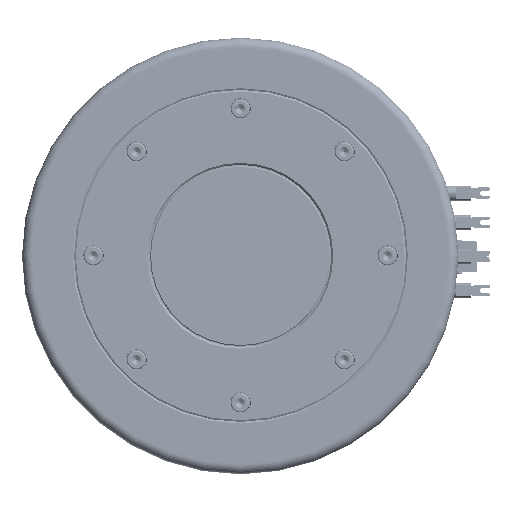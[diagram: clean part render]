
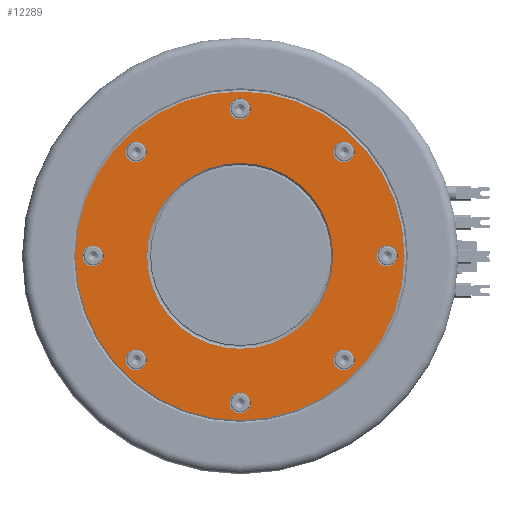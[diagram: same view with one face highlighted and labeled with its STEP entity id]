
A CAD part, top view. The second image highlights one B-rep face of the part: STEP entity #12289.
In plain terms, the highlighted planar face has unit normal (0, 0, 1) as drawn and (-1, 0, 0) by its records, which use the part's own axes.
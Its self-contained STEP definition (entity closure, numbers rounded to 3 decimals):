
#10424=CARTESIAN_POINT('',(0.,0.,0.));
#10425=DIRECTION('',(1.,0.,0.));
#10426=DIRECTION('',(0.,0.,1.));
#10427=AXIS2_PLACEMENT_3D('',#10424,#10425,#10426);
#10429=CARTESIAN_POINT('',(0.,0.,0.));
#10430=DIRECTION('',(1.,0.,0.));
#10431=DIRECTION('',(0.,0.,-1.));
#10432=AXIS2_PLACEMENT_3D('',#10429,#10430,#10431);
#10434=CARTESIAN_POINT('',(0.,54.801,54.801));
#10435=DIRECTION('',(-1.,0.,0.));
#10436=DIRECTION('',(0.,0.,1.));
#10437=AXIS2_PLACEMENT_3D('',#10434,#10435,#10436);
#10439=CARTESIAN_POINT('',(0.,54.801,54.801));
#10440=DIRECTION('',(-1.,0.,0.));
#10441=DIRECTION('',(0.,0.,-1.));
#10442=AXIS2_PLACEMENT_3D('',#10439,#10440,#10441);
#10444=CARTESIAN_POINT('',(0.,0.,77.5));
#10445=DIRECTION('',(-1.,0.,0.));
#10446=DIRECTION('',(0.,0.,1.));
#10447=AXIS2_PLACEMENT_3D('',#10444,#10445,#10446);
#10449=CARTESIAN_POINT('',(0.,0.,77.5));
#10450=DIRECTION('',(-1.,0.,0.));
#10451=DIRECTION('',(0.,0.,-1.));
#10452=AXIS2_PLACEMENT_3D('',#10449,#10450,#10451);
#10454=CARTESIAN_POINT('',(0.,-54.801,54.801));
#10455=DIRECTION('',(-1.,0.,0.));
#10456=DIRECTION('',(0.,0.,1.));
#10457=AXIS2_PLACEMENT_3D('',#10454,#10455,#10456);
#10459=CARTESIAN_POINT('',(0.,-54.801,54.801));
#10460=DIRECTION('',(-1.,0.,0.));
#10461=DIRECTION('',(0.,0.,-1.));
#10462=AXIS2_PLACEMENT_3D('',#10459,#10460,#10461);
#10464=CARTESIAN_POINT('',(0.,-77.5,0.));
#10465=DIRECTION('',(-1.,0.,0.));
#10466=DIRECTION('',(0.,0.,1.));
#10467=AXIS2_PLACEMENT_3D('',#10464,#10465,#10466);
#10469=CARTESIAN_POINT('',(0.,-77.5,0.));
#10470=DIRECTION('',(-1.,0.,0.));
#10471=DIRECTION('',(0.,0.,-1.));
#10472=AXIS2_PLACEMENT_3D('',#10469,#10470,#10471);
#10474=CARTESIAN_POINT('',(0.,-54.801,-54.801));
#10475=DIRECTION('',(-1.,0.,0.));
#10476=DIRECTION('',(0.,0.,1.));
#10477=AXIS2_PLACEMENT_3D('',#10474,#10475,#10476);
#10479=CARTESIAN_POINT('',(0.,-54.801,-54.801));
#10480=DIRECTION('',(-1.,0.,0.));
#10481=DIRECTION('',(0.,0.,-1.));
#10482=AXIS2_PLACEMENT_3D('',#10479,#10480,#10481);
#10484=CARTESIAN_POINT('',(0.,0.,-77.5));
#10485=DIRECTION('',(-1.,0.,0.));
#10486=DIRECTION('',(0.,0.,1.));
#10487=AXIS2_PLACEMENT_3D('',#10484,#10485,#10486);
#10489=CARTESIAN_POINT('',(0.,0.,-77.5));
#10490=DIRECTION('',(-1.,0.,0.));
#10491=DIRECTION('',(0.,0.,-1.));
#10492=AXIS2_PLACEMENT_3D('',#10489,#10490,#10491);
#10494=CARTESIAN_POINT('',(0.,54.801,-54.801));
#10495=DIRECTION('',(-1.,0.,0.));
#10496=DIRECTION('',(0.,0.,1.));
#10497=AXIS2_PLACEMENT_3D('',#10494,#10495,#10496);
#10499=CARTESIAN_POINT('',(0.,54.801,-54.801));
#10500=DIRECTION('',(-1.,0.,0.));
#10501=DIRECTION('',(0.,0.,-1.));
#10502=AXIS2_PLACEMENT_3D('',#10499,#10500,#10501);
#10504=CARTESIAN_POINT('',(0.,77.5,0.));
#10505=DIRECTION('',(-1.,0.,0.));
#10506=DIRECTION('',(0.,0.,1.));
#10507=AXIS2_PLACEMENT_3D('',#10504,#10505,#10506);
#10509=CARTESIAN_POINT('',(0.,77.5,0.));
#10510=DIRECTION('',(-1.,0.,0.));
#10511=DIRECTION('',(0.,0.,-1.));
#10512=AXIS2_PLACEMENT_3D('',#10509,#10510,#10511);
#10514=CARTESIAN_POINT('',(0.,0.,0.));
#10515=DIRECTION('',(-1.,0.,0.));
#10516=DIRECTION('',(0.,0.,1.));
#10517=AXIS2_PLACEMENT_3D('',#10514,#10515,#10516);
#10519=CARTESIAN_POINT('',(0.,0.,0.));
#10520=DIRECTION('',(-1.,0.,0.));
#10521=DIRECTION('',(0.,0.,-1.));
#10522=AXIS2_PLACEMENT_3D('',#10519,#10520,#10521);
#11680=CARTESIAN_POINT('',(0.,-54.801,60.326));
#11681=CARTESIAN_POINT('',(0.,-54.801,49.276));
#11682=VERTEX_POINT('',#11680);
#11683=VERTEX_POINT('',#11681);
#11684=CARTESIAN_POINT('',(0.,0.,86.634));
#11685=CARTESIAN_POINT('',(0.,0.,
-86.634));
#11686=VERTEX_POINT('',#11684);
#11687=VERTEX_POINT('',#11685);
#11688=CARTESIAN_POINT('',(0.,54.801,60.326));
#11689=CARTESIAN_POINT('',(0.,54.801,49.276));
#11690=VERTEX_POINT('',#11688);
#11691=VERTEX_POINT('',#11689);
#11692=CARTESIAN_POINT('',(0.,0.,83.025));
#11693=CARTESIAN_POINT('',(0.,0.,71.975));
#11694=VERTEX_POINT('',#11692);
#11695=VERTEX_POINT('',#11693);
#11696=CARTESIAN_POINT('',(0.,-77.5,5.525));
#11697=CARTESIAN_POINT('',(0.,-77.5,-5.525));
#11698=VERTEX_POINT('',#11696);
#11699=VERTEX_POINT('',#11697);
#11700=CARTESIAN_POINT('',(0.,-54.801,-49.276));
#11701=CARTESIAN_POINT('',(0.,-54.801,-60.326));
#11702=VERTEX_POINT('',#11700);
#11703=VERTEX_POINT('',#11701);
#11704=CARTESIAN_POINT('',(0.,0.,-71.975));
#11705=CARTESIAN_POINT('',(0.,0.,-83.025));
#11706=VERTEX_POINT('',#11704);
#11707=VERTEX_POINT('',#11705);
#11708=CARTESIAN_POINT('',(0.,54.801,-49.276));
#11709=CARTESIAN_POINT('',(0.,54.801,-60.326));
#11710=VERTEX_POINT('',#11708);
#11711=VERTEX_POINT('',#11709);
#11712=CARTESIAN_POINT('',(0.,77.5,5.525));
#11713=CARTESIAN_POINT('',(0.,77.5,-5.525));
#11714=VERTEX_POINT('',#11712);
#11715=VERTEX_POINT('',#11713);
#11716=CARTESIAN_POINT('',(0.,0.,49.));
#11717=CARTESIAN_POINT('',(0.,0.,-49.));
#11718=VERTEX_POINT('',#11716);
#11719=VERTEX_POINT('',#11717);
#12225=CARTESIAN_POINT('',(0.,49.,0.));
#12226=DIRECTION('',(1.,0.,0.));
#12227=DIRECTION('',(0.,0.,-1.));
#12228=AXIS2_PLACEMENT_3D('',#12225,#12226,#12227);
#12229=PLANE('',#12228);
#12231=ORIENTED_EDGE('',*,*,#12230,.T.);
#12233=ORIENTED_EDGE('',*,*,#12232,.T.);
#12234=EDGE_LOOP('',(#12231,#12233));
#12235=FACE_OUTER_BOUND('',#12234,.F.);
#12237=ORIENTED_EDGE('',*,*,#12236,.T.);
#12239=ORIENTED_EDGE('',*,*,#12238,.T.);
#12240=EDGE_LOOP('',(#12237,#12239));
#12241=FACE_BOUND('',#12240,.F.);
#12243=ORIENTED_EDGE('',*,*,#12242,.T.);
#12245=ORIENTED_EDGE('',*,*,#12244,.T.);
#12246=EDGE_LOOP('',(#12243,#12245));
#12247=FACE_BOUND('',#12246,.F.);
#12248=ORIENTED_EDGE('',*,*,#12215,.T.);
#12250=ORIENTED_EDGE('',*,*,#12249,.T.);
#12251=EDGE_LOOP('',(#12248,#12250));
#12252=FACE_BOUND('',#12251,.F.);
#12254=ORIENTED_EDGE('',*,*,#12253,.T.);
#12256=ORIENTED_EDGE('',*,*,#12255,.T.);
#12257=EDGE_LOOP('',(#12254,#12256));
#12258=FACE_BOUND('',#12257,.F.);
#12260=ORIENTED_EDGE('',*,*,#12259,.T.);
#12262=ORIENTED_EDGE('',*,*,#12261,.T.);
#12263=EDGE_LOOP('',(#12260,#12262));
#12264=FACE_BOUND('',#12263,.F.);
#12266=ORIENTED_EDGE('',*,*,#12265,.T.);
#12268=ORIENTED_EDGE('',*,*,#12267,.T.);
#12269=EDGE_LOOP('',(#12266,#12268));
#12270=FACE_BOUND('',#12269,.F.);
#12272=ORIENTED_EDGE('',*,*,#12271,.T.);
#12274=ORIENTED_EDGE('',*,*,#12273,.T.);
#12275=EDGE_LOOP('',(#12272,#12274));
#12276=FACE_BOUND('',#12275,.F.);
#12278=ORIENTED_EDGE('',*,*,#12277,.T.);
#12280=ORIENTED_EDGE('',*,*,#12279,.T.);
#12281=EDGE_LOOP('',(#12278,#12280));
#12282=FACE_BOUND('',#12281,.F.);
#12284=ORIENTED_EDGE('',*,*,#12283,.T.);
#12286=ORIENTED_EDGE('',*,*,#12285,.T.);
#12287=EDGE_LOOP('',(#12284,#12286));
#12288=FACE_BOUND('',#12287,.F.);
#12289=ADVANCED_FACE('',(#12235,#12241,#12247,#12252,#12258,#12264,#12270,
#12276,#12282,#12288),#12229,.F.);
#10428=CIRCLE('',#10427,86.634);
#10433=CIRCLE('',#10432,86.634);
#10438=CIRCLE('',#10437,5.525);
#10443=CIRCLE('',#10442,5.525);
#10448=CIRCLE('',#10447,5.525);
#10453=CIRCLE('',#10452,5.525);
#10458=CIRCLE('',#10457,5.525);
#10463=CIRCLE('',#10462,5.525);
#10468=CIRCLE('',#10467,5.525);
#10473=CIRCLE('',#10472,5.525);
#10478=CIRCLE('',#10477,5.525);
#10483=CIRCLE('',#10482,5.525);
#10488=CIRCLE('',#10487,5.525);
#10493=CIRCLE('',#10492,5.525);
#10498=CIRCLE('',#10497,5.525);
#10503=CIRCLE('',#10502,5.525);
#10508=CIRCLE('',#10507,5.525);
#10513=CIRCLE('',#10512,5.525);
#10518=CIRCLE('',#10517,49.);
#10523=CIRCLE('',#10522,49.);
#12215=EDGE_CURVE('',#11682,#11683,#10458,.T.);
#12230=EDGE_CURVE('',#11686,#11687,#10428,.T.);
#12232=EDGE_CURVE('',#11687,#11686,#10433,.T.);
#12236=EDGE_CURVE('',#11690,#11691,#10438,.T.);
#12238=EDGE_CURVE('',#11691,#11690,#10443,.T.);
#12242=EDGE_CURVE('',#11694,#11695,#10448,.T.);
#12244=EDGE_CURVE('',#11695,#11694,#10453,.T.);
#12249=EDGE_CURVE('',#11683,#11682,#10463,.T.);
#12253=EDGE_CURVE('',#11698,#11699,#10468,.T.);
#12255=EDGE_CURVE('',#11699,#11698,#10473,.T.);
#12259=EDGE_CURVE('',#11702,#11703,#10478,.T.);
#12261=EDGE_CURVE('',#11703,#11702,#10483,.T.);
#12265=EDGE_CURVE('',#11706,#11707,#10488,.T.);
#12267=EDGE_CURVE('',#11707,#11706,#10493,.T.);
#12271=EDGE_CURVE('',#11710,#11711,#10498,.T.);
#12273=EDGE_CURVE('',#11711,#11710,#10503,.T.);
#12277=EDGE_CURVE('',#11714,#11715,#10508,.T.);
#12279=EDGE_CURVE('',#11715,#11714,#10513,.T.);
#12283=EDGE_CURVE('',#11718,#11719,#10518,.T.);
#12285=EDGE_CURVE('',#11719,#11718,#10523,.T.);
